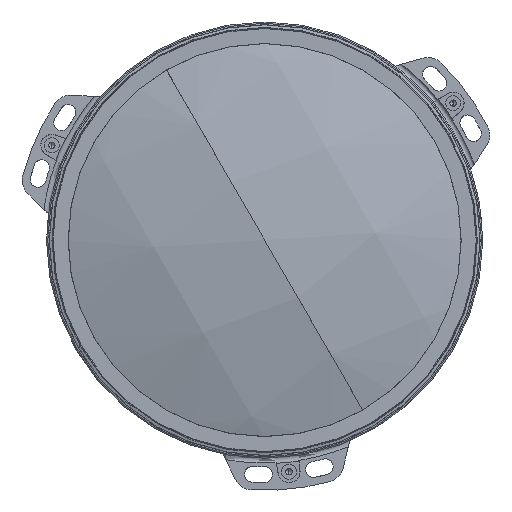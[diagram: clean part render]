
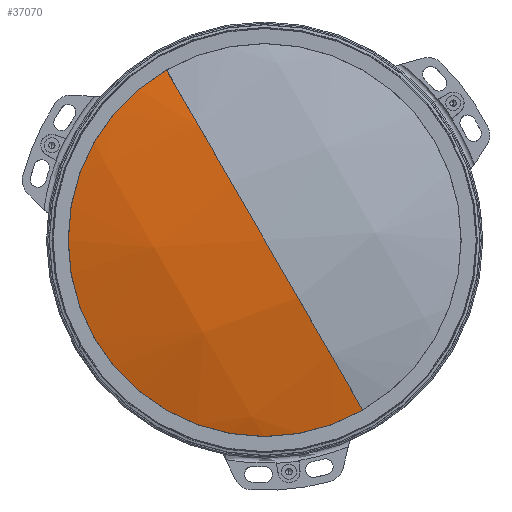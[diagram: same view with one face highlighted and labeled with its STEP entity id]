
A CAD part, top view. The second image highlights one B-rep face of the part: STEP entity #37070.
In plain terms, the highlighted spherical face has radius 999.44 mm.
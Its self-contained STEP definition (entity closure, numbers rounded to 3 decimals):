
#4222 = AXIS2_PLACEMENT_3D ( 'NONE', #55188, #73630, #4557 ) ;
#4557 = DIRECTION ( 'NONE',  ( 0.5, -0.866, 0. ) ) ;
#17755 = CIRCLE ( 'NONE', #63984, 999.44 ) ;
#29113 = ORIENTED_EDGE ( 'NONE', *, *, #51674, .T. ) ;
#30673 = AXIS2_PLACEMENT_3D ( 'NONE', #42361, #73281, #53549 ) ;
#31212 = EDGE_CURVE ( 'NONE', #62403, #122301, #113098, .T. ) ;
#37070 = ADVANCED_FACE ( 'NONE', ( #75562 ), #53890, .T. ) ;
#38122 = CARTESIAN_POINT ( 'NONE',  ( 156.08, -270.339, 19. ) ) ;
#39489 = AXIS2_PLACEMENT_3D ( 'NONE', #74183, #103798, #94606 ) ;
#42361 = CARTESIAN_POINT ( 'NONE',  ( 0., 0., -930.44 ) ) ;
#47467 = CIRCLE ( 'NONE', #30673, 999.44 ) ;
#47686 = DIRECTION ( 'NONE',  ( 0.866, 0.5, 0. ) ) ;
#51674 = EDGE_CURVE ( 'NONE', #122301, #77430, #47467, .T. ) ;
#52384 = EDGE_LOOP ( 'NONE', ( #92885, #79452, #29113 ) ) ;
#53549 = DIRECTION ( 'NONE',  ( 0.5, -0.866, 0. ) ) ;
#53890 = SPHERICAL_SURFACE ( 'NONE', #4222, 999.44 ) ;
#55188 = CARTESIAN_POINT ( 'NONE',  ( 0., 0., -930.44 ) ) ;
#62403 = VERTEX_POINT ( 'NONE', #68807 ) ;
#63984 = AXIS2_PLACEMENT_3D ( 'NONE', #80510, #47686, #87793 ) ;
#68807 = CARTESIAN_POINT ( 'NONE',  ( -156.08, 270.339, 19. ) ) ;
#73281 = DIRECTION ( 'NONE',  ( -0.866, -0.5, 0. ) ) ;
#73630 = DIRECTION ( 'NONE',  ( 0.866, 0.5, 0. ) ) ;
#74183 = CARTESIAN_POINT ( 'NONE',  ( 0., 0., 19. ) ) ;
#75562 = FACE_OUTER_BOUND ( 'NONE', #52384, .T. ) ;
#77430 = VERTEX_POINT ( 'NONE', #86551 ) ;
#79452 = ORIENTED_EDGE ( 'NONE', *, *, #31212, .T. ) ;
#80510 = CARTESIAN_POINT ( 'NONE',  ( 0., 0., -930.44 ) ) ;
#86551 = CARTESIAN_POINT ( 'NONE',  ( 0., 0., 69. ) ) ;
#87793 = DIRECTION ( 'NONE',  ( -0.5, 0.866, 0. ) ) ;
#92885 = ORIENTED_EDGE ( 'NONE', *, *, #123060, .F. ) ;
#94606 = DIRECTION ( 'NONE',  ( 0.866, 0.5, 0. ) ) ;
#103798 = DIRECTION ( 'NONE',  ( 0., 0., 1. ) ) ;
#113098 = CIRCLE ( 'NONE', #39489, 312.16 ) ;
#122301 = VERTEX_POINT ( 'NONE', #38122 ) ;
#123060 = EDGE_CURVE ( 'NONE', #62403, #77430, #17755, .T. ) ;
